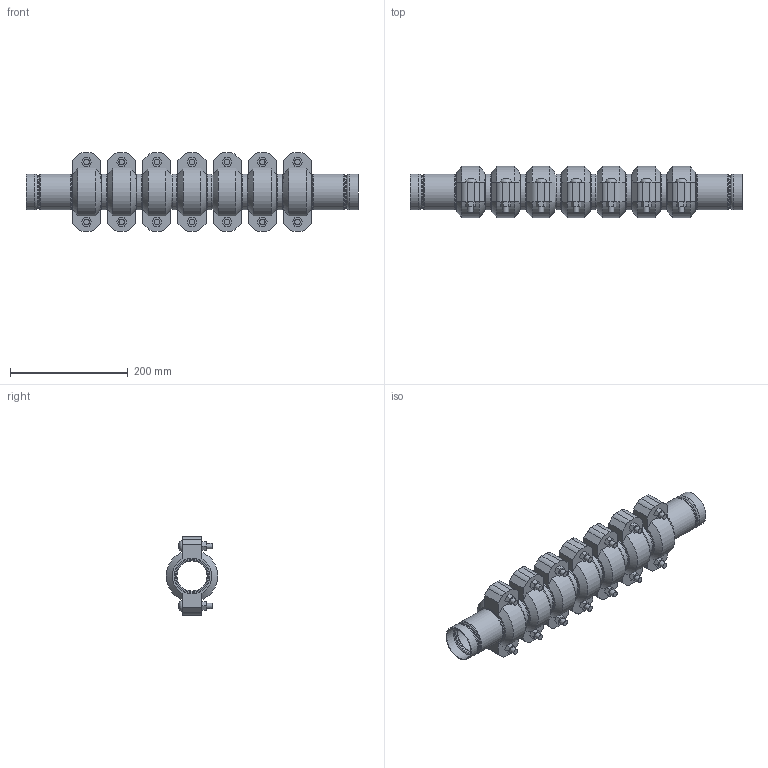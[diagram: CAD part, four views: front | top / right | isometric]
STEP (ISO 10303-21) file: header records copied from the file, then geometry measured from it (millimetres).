
FILE_DESCRIPTION(/* description */ ('VIC STRENGTHIN 100 EXPANSION JOINT 7 COUPLINGS NEUTRAL STYLE E155 (ST1)','CAx-IF Rec.Pracs.---Representation and Presentation of Product Manufacturing Information (PMI)---4.0---2014-10-13'),/* implementation_level */ '2;1');
FILE_NAME(/* name */ 'C:\Users\Vjadhav\AppData\Roaming\Autodesk\ApplicationPlugins\Victaulic.Temp\A857\Victaulic_SS-StrengThin 100_Expansion Joint_Neutral_7 Couplings_Style E155 (ST1)_7 Coup_Neut_2 (50).stp',/* time_stamp */ '2021-07-20T17:49:40+05:00',/* author */ ('kkamble'),/* organization */ ('Victaulic'),/* preprocessor_version */ 'ST-DEVELOPER v17.2',/* originating_system */ 'Autodesk Inventor 2019',/* authorisation */ '');
FILE_SCHEMA (('AP242_MANAGED_MODEL_BASED_3D_ENGINEERING_MIM_LF { 1 0 10303 442 1 1 4 }'));
Length unit declared in the file: inch
Products named in the file (4): E155-02.0; E494G-02.0; Nipple-02.0; 075-02.0
Assembly tree (15 placements, depth 2):
  E155-02.0
    E494G-02.0  x2
    Nipple-02.0  x6
    075-02.0  x7
Bounding box: 562.86 x 87.12 x 132.59 mm (x, y, z)
Volume: 1672629.5 mm3; surface area: 493351.7 mm2
Topology: 15 solids, 29 shells, 539 faces, 1333 edges, 940 vertices
Faces by surface type: plane 300, cylinder 161, torus 32, cone 32, bspline 14
Full cylindrical faces by diameter (mm): 9.525 x28, 11.43 x14, 51.13 x2, 52.502 x6, 53.95 x2, 53.975 x7, 54.331 x2, 57.125 x6, 57.15 x14, 60.325 x38
Entity records: 3782 total; most frequent: DIRECTION 673, CARTESIAN_POINT 661, ORIENTED_EDGE 548, AXIS2_PLACEMENT_3D 287, EDGE_CURVE 274, VERTEX_POINT 197, CIRCLE 167, EDGE_LOOP 129
